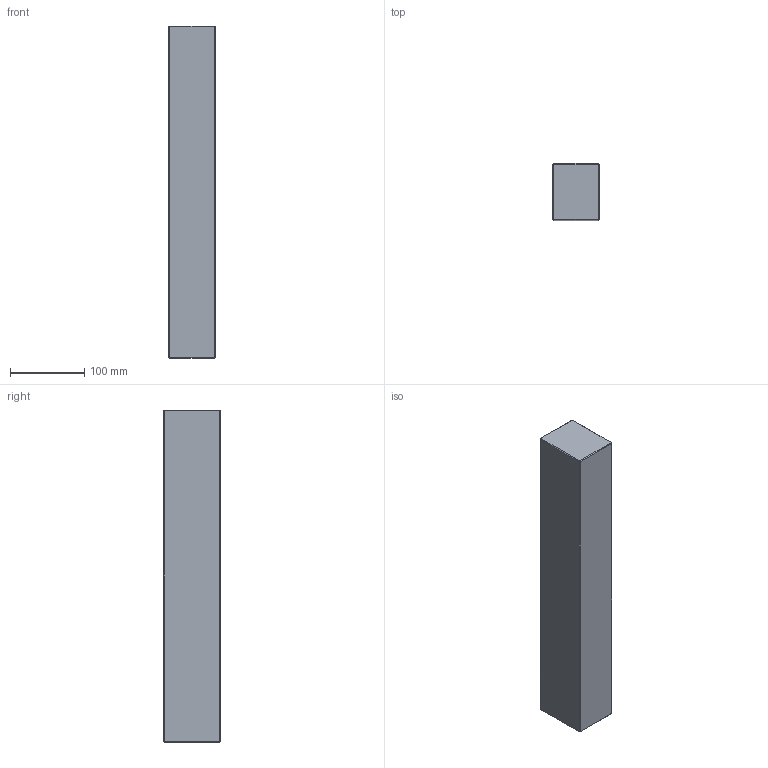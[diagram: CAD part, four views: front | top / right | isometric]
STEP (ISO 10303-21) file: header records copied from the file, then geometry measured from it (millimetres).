
FILE_DESCRIPTION (( 'STEP AP214' ), '1' );
FILE_NAME ('ESP-P-346X446x76.STEP', '2020-04-08T11:02:16', ( 'August' ), ( '' ), 'SwSTEP 2.0', 'SolidWorks 2018', '' );
FILE_SCHEMA (( 'AUTOMOTIVE_DESIGN' ));
Length unit declared in the file: millimetre
Products named in the file (1): ESP-P-346X446x76
Bounding box: 62 x 76 x 446 mm (x, y, z)
Volume: 2100389.3 mm3; surface area: 131148.6 mm2
Topology: 1 solids, 1 shells, 26 faces, 48 edges, 24 vertices
Faces by surface type: plane 26
Entity records: 634 total; most frequent: DIRECTION 102, CARTESIAN_POINT 99, ORIENTED_EDGE 96, LINE 48, EDGE_CURVE 48, VECTOR 48, AXIS2_PLACEMENT_3D 27, ADVANCED_FACE 26
